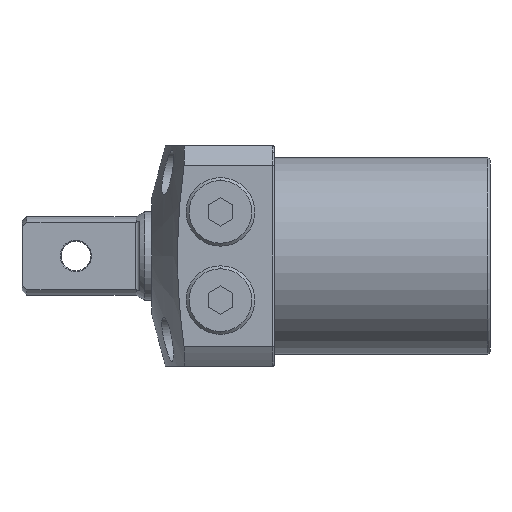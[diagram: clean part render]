
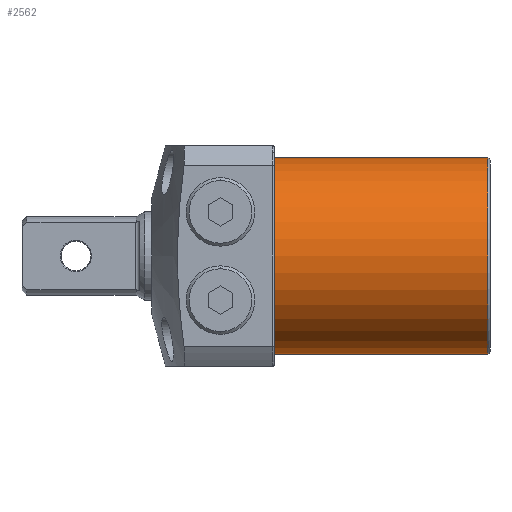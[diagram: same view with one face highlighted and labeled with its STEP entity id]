
A CAD part, left-side view. The second image highlights one B-rep face of the part: STEP entity #2562.
In plain terms, the highlighted cylindrical face has radius 20 mm (diameter 40 mm), a partial arc.
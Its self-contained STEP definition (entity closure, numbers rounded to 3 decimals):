
#479 = EDGE_CURVE ( 'NONE', #4979, #5557, #3715, .T. ) ;
#810 = VECTOR ( 'NONE', #2210, 1000. ) ;
#964 = CARTESIAN_POINT ( 'NONE',  ( 0., 0., 0. ) ) ;
#986 = EDGE_CURVE ( 'NONE', #1344, #4979, #4105, .T. ) ;
#1309 = AXIS2_PLACEMENT_3D ( 'NONE', #964, #3999, #1388 ) ;
#1344 = VERTEX_POINT ( 'NONE', #4681 ) ;
#1388 = DIRECTION ( 'NONE',  ( 0., 0., -1. ) ) ;
#1540 = VERTEX_POINT ( 'NONE', #5135 ) ;
#1557 = CARTESIAN_POINT ( 'NONE',  ( 46.5, 0., 0. ) ) ;
#1823 = DIRECTION ( 'NONE',  ( -1., 0., 0. ) ) ;
#1952 = LINE ( 'NONE', #5193, #810 ) ;
#1963 = EDGE_CURVE ( 'NONE', #5557, #1540, #2302, .T. ) ;
#1985 = DIRECTION ( 'NONE',  ( 0., 0., 1. ) ) ;
#2000 = ORIENTED_EDGE ( 'NONE', *, *, #986, .T. ) ;
#2005 = DIRECTION ( 'NONE',  ( -1., 0., 0. ) ) ;
#2134 = CARTESIAN_POINT ( 'NONE',  ( 43.5, 0., 20. ) ) ;
#2210 = DIRECTION ( 'NONE',  ( -1., 0., 0. ) ) ;
#2302 = CIRCLE ( 'NONE', #1309, 20. ) ;
#2562 = ADVANCED_FACE ( 'NONE', ( #4244 ), #5116, .T. ) ;
#2567 = VECTOR ( 'NONE', #4087, 1000. ) ;
#2584 = EDGE_LOOP ( 'NONE', ( #4916, #2000, #4791, #3277 ) ) ;
#3277 = ORIENTED_EDGE ( 'NONE', *, *, #1963, .T. ) ;
#3715 = LINE ( 'NONE', #4500, #2567 ) ;
#3726 = AXIS2_PLACEMENT_3D ( 'NONE', #1557, #2005, #1985 ) ;
#3869 = CARTESIAN_POINT ( 'NONE',  ( 0., 0., 20. ) ) ;
#3999 = DIRECTION ( 'NONE',  ( 1., 0., 0. ) ) ;
#4087 = DIRECTION ( 'NONE',  ( -1., 0., 0. ) ) ;
#4105 = CIRCLE ( 'NONE', #5503, 20. ) ;
#4244 = FACE_OUTER_BOUND ( 'NONE', #2584, .T. ) ;
#4431 = CARTESIAN_POINT ( 'NONE',  ( 43.5, 0., 0. ) ) ;
#4500 = CARTESIAN_POINT ( 'NONE',  ( 46.5, 0., 20. ) ) ;
#4625 = EDGE_CURVE ( 'NONE', #1344, #1540, #1952, .T. ) ;
#4681 = CARTESIAN_POINT ( 'NONE',  ( 43.5, 0., -20. ) ) ;
#4791 = ORIENTED_EDGE ( 'NONE', *, *, #479, .T. ) ;
#4871 = DIRECTION ( 'NONE',  ( 0., 0., -1. ) ) ;
#4916 = ORIENTED_EDGE ( 'NONE', *, *, #4625, .F. ) ;
#4979 = VERTEX_POINT ( 'NONE', #2134 ) ;
#5116 = CYLINDRICAL_SURFACE ( 'NONE', #3726, 20. ) ;
#5135 = CARTESIAN_POINT ( 'NONE',  ( 0., 0., -20. ) ) ;
#5193 = CARTESIAN_POINT ( 'NONE',  ( 46.5, 0., -20. ) ) ;
#5503 = AXIS2_PLACEMENT_3D ( 'NONE', #4431, #1823, #4871 ) ;
#5557 = VERTEX_POINT ( 'NONE', #3869 ) ;
